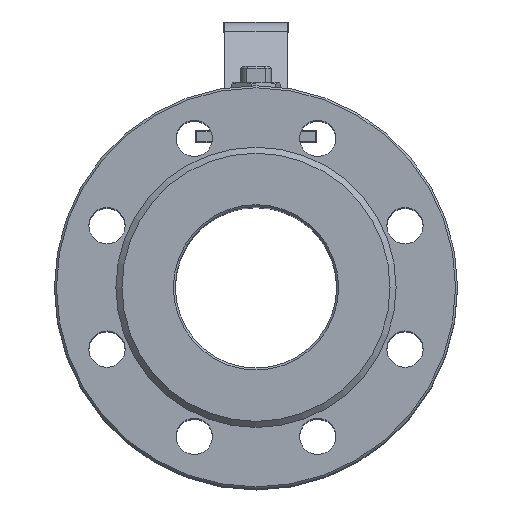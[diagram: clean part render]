
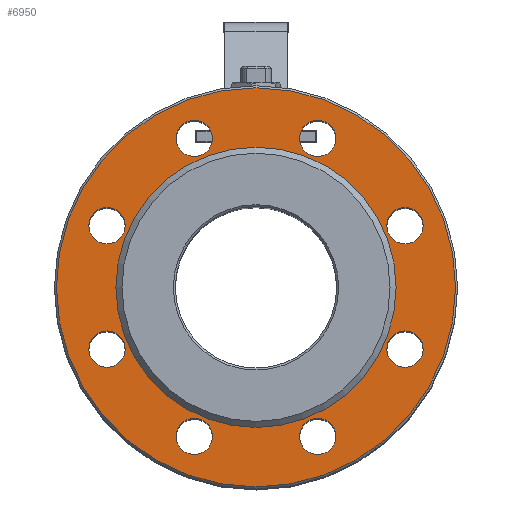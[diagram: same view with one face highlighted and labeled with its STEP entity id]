
A CAD part, top view. The second image highlights one B-rep face of the part: STEP entity #6950.
In plain terms, the highlighted planar face has unit normal (0, 0, 1).
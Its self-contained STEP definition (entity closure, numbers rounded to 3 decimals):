
#6950=ADVANCED_FACE('',(#20514,#20516,#20518,#20520,#20522,#20524,#20526,#20528,
#20530,#20532),#20534,.F.);
#20514=FACE_BOUND('',#20515,.T.);
#20515=EDGE_LOOP('',(#31123));
#20516=FACE_BOUND('',#20517,.T.);
#20517=EDGE_LOOP('',(#31124));
#20518=FACE_BOUND('',#20519,.T.);
#20519=EDGE_LOOP('',(#31125));
#20520=FACE_BOUND('',#20521,.T.);
#20521=EDGE_LOOP('',(#31126));
#20522=FACE_BOUND('',#20523,.T.);
#20523=EDGE_LOOP('',(#31127));
#20524=FACE_BOUND('',#20525,.T.);
#20525=EDGE_LOOP('',(#31128));
#20526=FACE_BOUND('',#20527,.T.);
#20527=EDGE_LOOP('',(#31129));
#20528=FACE_BOUND('',#20529,.T.);
#20529=EDGE_LOOP('',(#31130));
#20530=FACE_BOUND('',#20531,.T.);
#20531=EDGE_LOOP('',(#31131));
#20532=FACE_BOUND('',#20533,.T.);
#20533=EDGE_LOOP('',(#31132));
#20534=PLANE('',#20535);
#20535=AXIS2_PLACEMENT_3D('',#20536,#20537,#20538);
#20536=CARTESIAN_POINT('',(0.,0.,152.));
#20537=DIRECTION('',(0.,0.,-1.));
#20538=DIRECTION('',(-1.,0.,0.));
#31123=ORIENTED_EDGE('',*,*,#36243,.F.);
#31124=ORIENTED_EDGE('',*,*,#36244,.F.);
#31125=ORIENTED_EDGE('',*,*,#36046,.F.);
#31126=ORIENTED_EDGE('',*,*,#36045,.F.);
#31127=ORIENTED_EDGE('',*,*,#36044,.F.);
#31128=ORIENTED_EDGE('',*,*,#36043,.F.);
#31129=ORIENTED_EDGE('',*,*,#36050,.F.);
#31130=ORIENTED_EDGE('',*,*,#36049,.F.);
#31131=ORIENTED_EDGE('',*,*,#36048,.F.);
#31132=ORIENTED_EDGE('',*,*,#36047,.F.);
#36043=EDGE_CURVE('',#42820,#42820,#42821,.T.);
#36044=EDGE_CURVE('',#42822,#42822,#42823,.T.);
#36045=EDGE_CURVE('',#42824,#42824,#42825,.T.);
#36046=EDGE_CURVE('',#42826,#42826,#42827,.T.);
#36047=EDGE_CURVE('',#42828,#42828,#42829,.T.);
#36048=EDGE_CURVE('',#42830,#42830,#42831,.T.);
#36049=EDGE_CURVE('',#42832,#42832,#42833,.T.);
#36050=EDGE_CURVE('',#42834,#42834,#42835,.T.);
#36243=EDGE_CURVE('',#43148,#43148,#43149,.T.);
#36244=EDGE_CURVE('',#43150,#43150,#43151,.F.);
#42820=VERTEX_POINT('',#84090);
#42821=CIRCLE('',#84091,9.);
#42822=VERTEX_POINT('',#84095);
#42823=CIRCLE('',#84096,9.);
#42824=VERTEX_POINT('',#84100);
#42825=CIRCLE('',#84101,9.);
#42826=VERTEX_POINT('',#84105);
#42827=CIRCLE('',#84106,9.);
#42828=VERTEX_POINT('',#84110);
#42829=CIRCLE('',#84111,9.);
#42830=VERTEX_POINT('',#84115);
#42831=CIRCLE('',#84116,9.);
#42832=VERTEX_POINT('',#84120);
#42833=CIRCLE('',#84121,9.);
#42834=VERTEX_POINT('',#84125);
#42835=CIRCLE('',#84126,9.);
#43148=VERTEX_POINT('',#87856);
#43149=CIRCLE('',#87857,99.);
#43150=VERTEX_POINT('',#87861);
#43151=CIRCLE('',#87862,69.5);
#84090=CARTESIAN_POINT('',(-82.91,-30.615,152.));
#84091=AXIS2_PLACEMENT_3D('',#84092,#84093,#84094);
#84092=CARTESIAN_POINT('',(-73.91,-30.615,152.));
#84093=DIRECTION('',(0.,0.,1.));
#84094=DIRECTION('',(-1.,0.,0.));
#84095=CARTESIAN_POINT('',(-82.91,30.615,152.));
#84096=AXIS2_PLACEMENT_3D('',#84097,#84098,#84099);
#84097=CARTESIAN_POINT('',(-73.91,30.615,152.));
#84098=DIRECTION('',(0.,0.,1.));
#84099=DIRECTION('',(-1.,0.,0.));
#84100=CARTESIAN_POINT('',(-39.615,73.91,152.));
#84101=AXIS2_PLACEMENT_3D('',#84102,#84103,#84104);
#84102=CARTESIAN_POINT('',(-30.615,73.91,152.));
#84103=DIRECTION('',(0.,0.,1.));
#84104=DIRECTION('',(0.746,-0.666,0.));
#84105=CARTESIAN_POINT('',(21.615,73.91,152.));
#84106=AXIS2_PLACEMENT_3D('',#84107,#84108,#84109);
#84107=CARTESIAN_POINT('',(30.615,73.91,152.));
#84108=DIRECTION('',(0.,0.,1.));
#84109=DIRECTION('',(0.057,-0.998,0.));
#84110=CARTESIAN_POINT('',(64.91,30.615,152.));
#84111=AXIS2_PLACEMENT_3D('',#84112,#84113,#84114);
#84112=CARTESIAN_POINT('',(73.91,30.615,152.));
#84113=DIRECTION('',(0.,0.,1.));
#84114=DIRECTION('',(-0.666,-0.746,0.));
#84115=CARTESIAN_POINT('',(64.91,-30.615,152.));
#84116=AXIS2_PLACEMENT_3D('',#84117,#84118,#84119);
#84117=CARTESIAN_POINT('',(73.91,-30.615,152.));
#84118=DIRECTION('',(0.,0.,1.));
#84119=DIRECTION('',(-0.998,-0.057,0.));
#84120=CARTESIAN_POINT('',(21.615,-73.91,152.));
#84121=AXIS2_PLACEMENT_3D('',#84122,#84123,#84124);
#84122=CARTESIAN_POINT('',(30.615,-73.91,152.));
#84123=DIRECTION('',(0.,0.,1.));
#84124=DIRECTION('',(-1.,0.,0.));
#84125=CARTESIAN_POINT('',(-39.615,-73.91,152.));
#84126=AXIS2_PLACEMENT_3D('',#84127,#84128,#84129);
#84127=CARTESIAN_POINT('',(-30.615,-73.91,152.));
#84128=DIRECTION('',(0.,0.,1.));
#84129=DIRECTION('',(-1.,0.,0.));
#87856=CARTESIAN_POINT('',(-99.,0.,152.));
#87857=AXIS2_PLACEMENT_3D('',#87858,#87859,#87860);
#87858=CARTESIAN_POINT('',(0.,0.,152.));
#87859=DIRECTION('',(0.,0.,-1.));
#87860=DIRECTION('',(-1.,0.,0.));
#87861=CARTESIAN_POINT('',(0.,69.5,152.));
#87862=AXIS2_PLACEMENT_3D('',#87863,#87864,#87865);
#87863=CARTESIAN_POINT('',(0.,0.,152.));
#87864=DIRECTION('',(0.,0.,-1.));
#87865=DIRECTION('',(0.,1.,0.));
